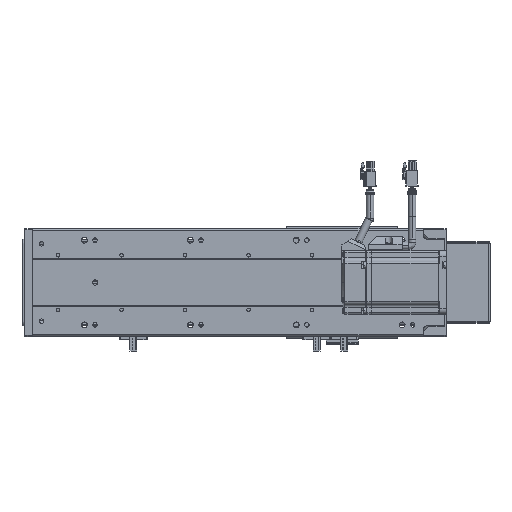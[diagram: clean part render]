
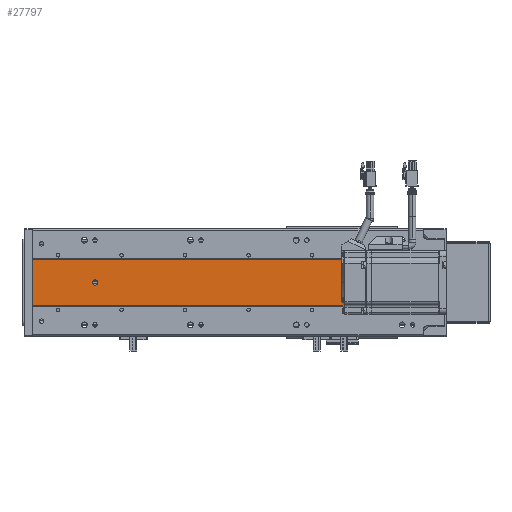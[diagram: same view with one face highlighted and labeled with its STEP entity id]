
A CAD part, front view. The second image highlights one B-rep face of the part: STEP entity #27797.
In plain terms, the highlighted planar face has unit normal (0, -1, 0).
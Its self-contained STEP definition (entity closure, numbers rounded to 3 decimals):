
#2937 = EDGE_LOOP ( 'NONE', ( #36973, #36992, #36975, #36999, #36974, #36968, #36967, #36982, #36976, #37093, #37029, #37120 ) ) ;
#2965 = EDGE_LOOP ( 'NONE', ( #37055, #37111 ) ) ;
#2981 = EDGE_LOOP ( 'NONE', ( #36989, #37098 ) ) ;
#27797 = ADVANCED_FACE ( 'NONE', ( #63721, #63695, #63737 ), #62041, .F. ) ;
#30754 = VERTEX_POINT ( 'NONE', #97818 ) ;
#30809 = VERTEX_POINT ( 'NONE', #97748 ) ;
#31029 = VERTEX_POINT ( 'NONE', #97865 ) ;
#31241 = VERTEX_POINT ( 'NONE', #97954 ) ;
#32527 = VERTEX_POINT ( 'NONE', #99632 ) ;
#32549 = VERTEX_POINT ( 'NONE', #99648 ) ;
#32579 = VERTEX_POINT ( 'NONE', #99703 ) ;
#32655 = VERTEX_POINT ( 'NONE', #99807 ) ;
#36967 = ORIENTED_EDGE ( 'NONE', *, *, #39982, .T. ) ;
#36968 = ORIENTED_EDGE ( 'NONE', *, *, #39361, .T. ) ;
#36973 = ORIENTED_EDGE ( 'NONE', *, *, #39990, .F. ) ;
#36974 = ORIENTED_EDGE ( 'NONE', *, *, #39369, .T. ) ;
#36975 = ORIENTED_EDGE ( 'NONE', *, *, #39377, .F. ) ;
#36976 = ORIENTED_EDGE ( 'NONE', *, *, #40004, .T. ) ;
#36982 = ORIENTED_EDGE ( 'NONE', *, *, #39307, .T. ) ;
#36989 = ORIENTED_EDGE ( 'NONE', *, *, #39389, .F. ) ;
#36992 = ORIENTED_EDGE ( 'NONE', *, *, #39739, .T. ) ;
#36999 = ORIENTED_EDGE ( 'NONE', *, *, #40146, .F. ) ;
#37029 = ORIENTED_EDGE ( 'NONE', *, *, #39988, .F. ) ;
#37055 = ORIENTED_EDGE ( 'NONE', *, *, #39352, .F. ) ;
#37093 = ORIENTED_EDGE ( 'NONE', *, *, #39363, .T. ) ;
#37098 = ORIENTED_EDGE ( 'NONE', *, *, #39924, .F. ) ;
#37111 = ORIENTED_EDGE ( 'NONE', *, *, #39911, .F. ) ;
#37120 = ORIENTED_EDGE ( 'NONE', *, *, #39771, .T. ) ;
#39307 = EDGE_CURVE ( 'NONE', #72871, #72900, #82644, .T. ) ;
#39352 = EDGE_CURVE ( 'NONE', #31241, #31029, #82679, .T. ) ;
#39361 = EDGE_CURVE ( 'NONE', #73645, #72873, #82702, .T. ) ;
#39363 = EDGE_CURVE ( 'NONE', #72962, #72863, #82661, .T. ) ;
#39369 = EDGE_CURVE ( 'NONE', #72894, #73645, #82752, .T. ) ;
#39377 = EDGE_CURVE ( 'NONE', #73087, #32549, #82753, .T. ) ;
#39389 = EDGE_CURVE ( 'NONE', #30809, #30754, #82724, .T. ) ;
#39739 = EDGE_CURVE ( 'NONE', #32579, #32549, #77633, .T. ) ;
#39771 = EDGE_CURVE ( 'NONE', #32655, #32527, #77717, .T. ) ;
#39911 = EDGE_CURVE ( 'NONE', #31029, #31241, #70965, .T. ) ;
#39924 = EDGE_CURVE ( 'NONE', #30754, #30809, #70961, .T. ) ;
#39982 = EDGE_CURVE ( 'NONE', #72873, #72871, #71031, .T. ) ;
#39988 = EDGE_CURVE ( 'NONE', #32655, #72863, #71044, .T. ) ;
#39990 = EDGE_CURVE ( 'NONE', #32579, #32527, #71019, .T. ) ;
#40004 = EDGE_CURVE ( 'NONE', #72900, #72962, #71032, .T. ) ;
#40146 = EDGE_CURVE ( 'NONE', #72894, #73087, #71171, .T. ) ;
#40774 = CARTESIAN_POINT ( 'NONE',  ( 115.403, 89.548, 373. ) ) ;
#40782 = DIRECTION ( 'NONE',  ( -1., 0., 0. ) ) ;
#40845 = DIRECTION ( 'NONE',  ( 0., 1., 0. ) ) ;
#45471 = CARTESIAN_POINT ( 'NONE',  ( 115.403, 89.548, 383. ) ) ;
#45474 = DIRECTION ( 'NONE',  ( -1., 0., 0. ) ) ;
#45494 = DIRECTION ( 'NONE',  ( 1., 0., 0. ) ) ;
#45498 = CARTESIAN_POINT ( 'NONE',  ( 118.817, 89.548, 389. ) ) ;
#45499 = CARTESIAN_POINT ( 'NONE',  ( 161.989, 89.548, 0. ) ) ;
#45500 = DIRECTION ( 'NONE',  ( 1., 0., 0. ) ) ;
#45501 = DIRECTION ( 'NONE',  ( 0., 1., 0. ) ) ;
#45502 = DIRECTION ( 'NONE',  ( 0., 0., -1. ) ) ;
#45507 = DIRECTION ( 'NONE',  ( 0., -1., 0. ) ) ;
#45510 = CARTESIAN_POINT ( 'NONE',  ( 140.403, 89.548, 59. ) ) ;
#45528 = DIRECTION ( 'NONE',  ( 0., 0., -1. ) ) ;
#45530 = CARTESIAN_POINT ( 'NONE',  ( 161.989, 89.548, 389. ) ) ;
#45550 = DIRECTION ( 'NONE',  ( 0., -1., 0. ) ) ;
#45569 = CARTESIAN_POINT ( 'NONE',  ( 140.403, 89.548, 359. ) ) ;
#45580 = DIRECTION ( 'NONE',  ( 1., 0., 0. ) ) ;
#62041 = PLANE ( 'NONE',  #93217 ) ;
#62057 = DIRECTION ( 'NONE',  ( 0., 1., 0. ) ) ;
#62062 = DIRECTION ( 'NONE',  ( -1., 0., 0. ) ) ;
#62072 = CARTESIAN_POINT ( 'NONE',  ( 161.989, 89.548, 389. ) ) ;
#63695 = FACE_BOUND ( 'NONE', #2965, .T. ) ;
#63721 = FACE_BOUND ( 'NONE', #2981, .T. ) ;
#63737 = FACE_OUTER_BOUND ( 'NONE', #2937, .T. ) ;
#63798 = DIRECTION ( 'NONE',  ( 0., 0., -1. ) ) ;
#63832 = CARTESIAN_POINT ( 'NONE',  ( 118.817, 89.548, 389. ) ) ;
#64224 = CARTESIAN_POINT ( 'NONE',  ( 161.989, 89.548, 389. ) ) ;
#64272 = DIRECTION ( 'NONE',  ( 1., 0., 0. ) ) ;
#70961 = CIRCLE ( 'NONE', #95333, 2.5 ) ;
#70965 = CIRCLE ( 'NONE', #95332, 2.5 ) ;
#71006 = VECTOR ( 'NONE', #71970, 1000. ) ;
#71019 = LINE ( 'NONE', #71969, #71006 ) ;
#71023 = VECTOR ( 'NONE', #71955, 1000. ) ;
#71031 = LINE ( 'NONE', #71952, #71023 ) ;
#71032 = LINE ( 'NONE', #63832, #71040 ) ;
#71040 = VECTOR ( 'NONE', #63798, 1000. ) ;
#71044 = LINE ( 'NONE', #71974, #71052 ) ;
#71052 = VECTOR ( 'NONE', #71964, 1000. ) ;
#71171 = LINE ( 'NONE', #64224, #71177 ) ;
#71177 = VECTOR ( 'NONE', #64272, 1000. ) ;
#71699 = CARTESIAN_POINT ( 'NONE',  ( 140.403, 89.548, 59. ) ) ;
#71700 = DIRECTION ( 'NONE',  ( 1., 0., 0. ) ) ;
#71737 = DIRECTION ( 'NONE',  ( 0., -1., 0. ) ) ;
#71752 = CARTESIAN_POINT ( 'NONE',  ( 140.403, 89.548, 359. ) ) ;
#71762 = DIRECTION ( 'NONE',  ( 1., 0., 0. ) ) ;
#71767 = DIRECTION ( 'NONE',  ( 0., -1., 0. ) ) ;
#71952 = CARTESIAN_POINT ( 'NONE',  ( 118.817, 89.548, 389. ) ) ;
#71955 = DIRECTION ( 'NONE',  ( 0., 0., -1. ) ) ;
#71964 = DIRECTION ( 'NONE',  ( 0., 0., -1. ) ) ;
#71969 = CARTESIAN_POINT ( 'NONE',  ( 161.989, 89.548, 389. ) ) ;
#71970 = DIRECTION ( 'NONE',  ( 0., 0., -1. ) ) ;
#71974 = CARTESIAN_POINT ( 'NONE',  ( 161.989, 89.548, 389. ) ) ;
#72697 = CARTESIAN_POINT ( 'NONE',  ( 165.403, 89.548, 383. ) ) ;
#72703 = DIRECTION ( 'NONE',  ( 0., 1., 0. ) ) ;
#72738 = DIRECTION ( 'NONE',  ( -1., 0., 0. ) ) ;
#72863 = VERTEX_POINT ( 'NONE', #80100 ) ;
#72871 = VERTEX_POINT ( 'NONE', #80163 ) ;
#72873 = VERTEX_POINT ( 'NONE', #80108 ) ;
#72876 = DIRECTION ( 'NONE',  ( -1., 0., 0. ) ) ;
#72879 = DIRECTION ( 'NONE',  ( 0., 1., 0. ) ) ;
#72894 = VERTEX_POINT ( 'NONE', #80155 ) ;
#72900 = VERTEX_POINT ( 'NONE', #80086 ) ;
#72957 = CARTESIAN_POINT ( 'NONE',  ( 165.403, 89.548, 373. ) ) ;
#72962 = VERTEX_POINT ( 'NONE', #80159 ) ;
#73087 = VERTEX_POINT ( 'NONE', #80191 ) ;
#73645 = VERTEX_POINT ( 'NONE', #80407 ) ;
#77633 = CIRCLE ( 'NONE', #95203, 4.75 ) ;
#77717 = CIRCLE ( 'NONE', #95229, 4.75 ) ;
#80086 = CARTESIAN_POINT ( 'NONE',  ( 118.817, 89.548, 369.698 ) ) ;
#80100 = CARTESIAN_POINT ( 'NONE',  ( 161.989, 89.548, 0. ) ) ;
#80108 = CARTESIAN_POINT ( 'NONE',  ( 118.817, 89.548, 379.698 ) ) ;
#80155 = CARTESIAN_POINT ( 'NONE',  ( 118.817, 89.548, 389. ) ) ;
#80159 = CARTESIAN_POINT ( 'NONE',  ( 118.817, 89.548, 0. ) ) ;
#80163 = CARTESIAN_POINT ( 'NONE',  ( 118.817, 89.548, 376.302 ) ) ;
#80191 = CARTESIAN_POINT ( 'NONE',  ( 161.989, 89.548, 389. ) ) ;
#80407 = CARTESIAN_POINT ( 'NONE',  ( 118.817, 89.548, 386.302 ) ) ;
#82644 = CIRCLE ( 'NONE', #95020, 4.75 ) ;
#82661 = LINE ( 'NONE', #45499, #82662 ) ;
#82662 = VECTOR ( 'NONE', #45500, 1000. ) ;
#82679 = CIRCLE ( 'NONE', #95039, 2.5 ) ;
#82702 = CIRCLE ( 'NONE', #95040, 4.75 ) ;
#82724 = CIRCLE ( 'NONE', #95078, 2.5 ) ;
#82752 = LINE ( 'NONE', #45498, #82774 ) ;
#82753 = LINE ( 'NONE', #45530, #82776 ) ;
#82774 = VECTOR ( 'NONE', #45502, 1000. ) ;
#82776 = VECTOR ( 'NONE', #45528, 1000. ) ;
#93217 = AXIS2_PLACEMENT_3D ( 'NONE', #62072, #62057, #62062 ) ;
#95020 = AXIS2_PLACEMENT_3D ( 'NONE', #40774, #40845, #40782 ) ;
#95039 = AXIS2_PLACEMENT_3D ( 'NONE', #45510, #45507, #45494 ) ;
#95040 = AXIS2_PLACEMENT_3D ( 'NONE', #45471, #45501, #45474 ) ;
#95078 = AXIS2_PLACEMENT_3D ( 'NONE', #45569, #45550, #45580 ) ;
#95203 = AXIS2_PLACEMENT_3D ( 'NONE', #72697, #72703, #72738 ) ;
#95229 = AXIS2_PLACEMENT_3D ( 'NONE', #72957, #72879, #72876 ) ;
#95332 = AXIS2_PLACEMENT_3D ( 'NONE', #71699, #71737, #71700 ) ;
#95333 = AXIS2_PLACEMENT_3D ( 'NONE', #71752, #71767, #71762 ) ;
#97748 = CARTESIAN_POINT ( 'NONE',  ( 142.903, 89.548, 359. ) ) ;
#97818 = CARTESIAN_POINT ( 'NONE',  ( 137.903, 89.548, 359. ) ) ;
#97865 = CARTESIAN_POINT ( 'NONE',  ( 137.903, 89.548, 59. ) ) ;
#97954 = CARTESIAN_POINT ( 'NONE',  ( 142.903, 89.548, 59. ) ) ;
#99632 = CARTESIAN_POINT ( 'NONE',  ( 161.989, 89.548, 376.302 ) ) ;
#99648 = CARTESIAN_POINT ( 'NONE',  ( 161.989, 89.548, 386.302 ) ) ;
#99703 = CARTESIAN_POINT ( 'NONE',  ( 161.989, 89.548, 379.698 ) ) ;
#99807 = CARTESIAN_POINT ( 'NONE',  ( 161.989, 89.548, 369.698 ) ) ;
